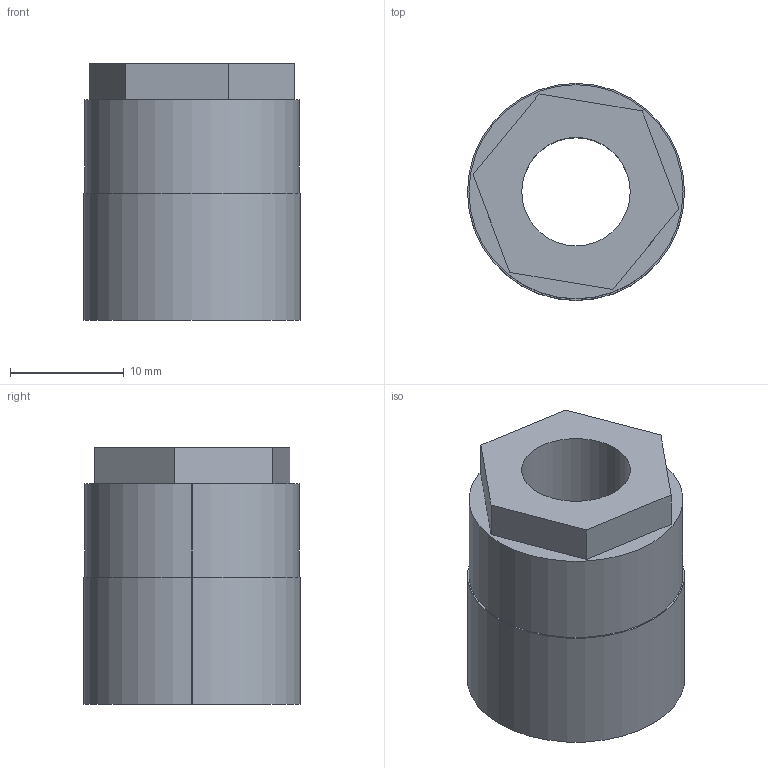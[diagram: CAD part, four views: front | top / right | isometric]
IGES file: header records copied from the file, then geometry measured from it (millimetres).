
Global section: file name: C:\Documents and Settings\Administrator\Desktop\Transfer Temp\trantorque0375.igs; native system: AutoDesk Inventor R2.0 ; preprocessor: AutoDesk Inventor Iges Exporter R2.0; author: No Author specified; organization: No Organization specified; date: 20011226.200542; units: inch
Bounding box: 19.05 x 19.05 x 22.54 mm (x, y, z)
Surface area: 2429.1 mm2 (no closed solid volume)
Topology: 0 solids, 0 shells, 16 faces, 72 edges, 72 vertices
Faces by surface type: bspline 12, revolution 4
